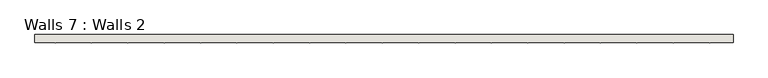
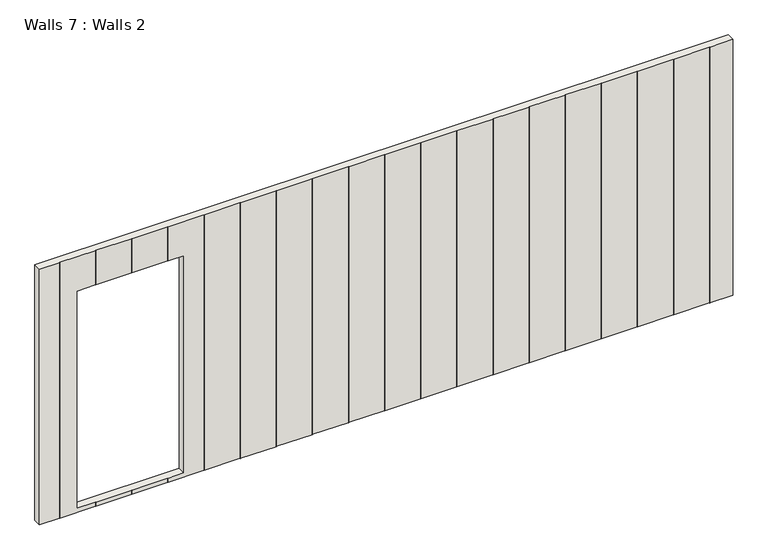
"""IFC4 building model written with IfcOpenShell, lengths in millimetres: wall geometry, Walls 7 : Walls 2."""

from ifc_helpers import new_model, si_unit, origin, place, context, project, spatial, faceted_brep, source, transform, mapped, element, save


def walls_7_walls_2_d57c6ef5(model_context):
    return source(origin(), model_context, "Body", "Brep", [
        faceted_brep([(3398.5161968, -3409.5092181, 3311.0), (-4222.1108023, -3409.5092181, 3311.0), (-4222.1108023, -3496.5092181, 3311.0), (-4004.0308023, -3496.5092181, 3311.0), (-4002.1508023, -3498.3892181, 3311.0), (-4000.2708023, -3496.5092181, 3311.0), (-3607.1508023, -3496.5092181, 3311.0), (-3605.2708023, -3498.3892181, 3311.0), (-3603.3908023, -3496.5092181, 3311.0), (-3210.2708023, -3496.5092181, 3311.0), (-3208.3908023, -3498.3892181, 3311.0), (-3206.5108023, -3496.5092181, 3311.0), (-2813.3908023, -3496.5092181, 3311.0), (-2811.5108023, -3498.3892181, 3311.0), (-2809.6308023, -3496.5092181, 3311.0), (-2416.5108023, -3496.5092181, 3311.0), (-2414.6308023, -3498.3892181, 3311.0), (-2412.7508023, -3496.5092181, 3311.0), (-2019.6308023, -3496.5092181, 3311.0), (-2017.7508023, -3498.3892181, 3311.0), (-2015.8708023, -3496.5092181, 3311.0), (-1622.7508023, -3496.5092181, 3311.0), (-1620.8708023, -3498.3892181, 3311.0), (-1618.9908023, -3496.5092181, 3311.0), (-1225.8708023, -3496.5092181, 3311.0), (-1223.9908023, -3498.3892181, 3311.0), (-1222.1108023, -3496.5092181, 3311.0), (-828.9908023, -3496.5092181, 3311.0), (-827.1108023, -3498.3892181, 3311.0), (-825.2308023, -3496.5092181, 3311.0), (-432.1108023, -3496.5092181, 3311.0), (-430.2308023, -3498.3892181, 3311.0), (-428.3508023, -3496.5092181, 3311.0), (-35.2308023, -3496.5092181, 3311.0), (-33.3508023, -3498.3892181, 3311.0), (-31.4708023, -3496.5092181, 3311.0), (361.6491977, -3496.5092181, 3311.0), (363.5291977, -3498.3892181, 3311.0), (365.4091977, -3496.5092181, 3311.0), (758.5291977, -3496.5092181, 3311.0), (760.4091977, -3498.3892181, 3311.0), (762.2891977, -3496.5092181, 3311.0), (1155.4091977, -3496.5092181, 3311.0), (1157.2891977, -3498.3892181, 3311.0), (1159.1691977, -3496.5092181, 3311.0), (1552.2891977, -3496.5092181, 3311.0), (1554.1691977, -3498.3892181, 3311.0), (1556.0491977, -3496.5092181, 3311.0), (1949.1691977, -3496.5092181, 3311.0), (1951.0491977, -3498.3892181, 3311.0), (1952.9291977, -3496.5092181, 3311.0), (2346.0491977, -3496.5092181, 3311.0), (2347.9291977, -3498.3892181, 3311.0), (2349.8091977, -3496.5092181, 3311.0), (2742.9291977, -3496.5092181, 3311.0), (2744.8091977, -3498.3892181, 3311.0), (2746.6891977, -3496.5092181, 3311.0), (3139.8091977, -3496.5092181, 3311.0), (3141.6891977, -3498.3892181, 3311.0), (3143.5691977, -3496.5092181, 3311.0), (3398.5161968, -3496.5092181, 3311.0), (-4222.1108023, -3409.5092181, 340.0), (3398.5161968, -3409.5092181, 340.0), (3398.5161968, -3496.5092181, 340.0), (3143.5691977, -3496.5092181, 340.0), (3141.6891977, -3498.3892181, 340.0), (3139.8091977, -3496.5092181, 340.0), (2746.6891977, -3496.5092181, 340.0), (2744.8091977, -3498.3892181, 340.0), (2742.9291977, -3496.5092181, 340.0), (2349.8091977, -3496.5092181, 340.0), (2347.9291977, -3498.3892181, 340.0), (2346.0491977, -3496.5092181, 340.0), (1952.9291977, -3496.5092181, 340.0), (1951.0491977, -3498.3892181, 340.0), (1949.1691977, -3496.5092181, 340.0), (1556.0491977, -3496.5092181, 340.0), (1554.1691977, -3498.3892181, 340.0), (1552.2891977, -3496.5092181, 340.0), (1159.1691977, -3496.5092181, 340.0), (1157.2891977, -3498.3892181, 340.0), (1155.4091977, -3496.5092181, 340.0), (762.2891977, -3496.5092181, 340.0), (760.4091977, -3498.3892181, 340.0), (758.5291977, -3496.5092181, 340.0), (365.4091977, -3496.5092181, 340.0), (363.5291977, -3498.3892181, 340.0), (361.6491977, -3496.5092181, 340.0), (-31.4708023, -3496.5092181, 340.0), (-33.3508023, -3498.3892181, 340.0), (-35.2308023, -3496.5092181, 340.0), (-428.3508023, -3496.5092181, 340.0), (-430.2308023, -3498.3892181, 340.0), (-432.1108023, -3496.5092181, 340.0), (-825.2308023, -3496.5092181, 340.0), (-827.1108023, -3498.3892181, 340.0), (-828.9908023, -3496.5092181, 340.0), (-1222.1108023, -3496.5092181, 340.0), (-1223.9908023, -3498.3892181, 340.0), (-1225.8708023, -3496.5092181, 340.0), (-1618.9908023, -3496.5092181, 340.0), (-1620.8708023, -3498.3892181, 340.0), (-1622.7508023, -3496.5092181, 340.0), (-2015.8708023, -3496.5092181, 340.0), (-2017.7508023, -3498.3892181, 340.0), (-2019.6308023, -3496.5092181, 340.0), (-2412.7508023, -3496.5092181, 340.0), (-2414.6308023, -3498.3892181, 340.0), (-2416.5108023, -3496.5092181, 340.0), (-2809.6308023, -3496.5092181, 340.0), (-2811.5108023, -3498.3892181, 340.0), (-2813.3908023, -3496.5092181, 340.0), (-3206.5108023, -3496.5092181, 340.0), (-3208.3908023, -3498.3892181, 340.0), (-3210.2708023, -3496.5092181, 340.0), (-3603.3908023, -3496.5092181, 340.0), (-3605.2708023, -3498.3892181, 340.0), (-3607.1508023, -3496.5092181, 340.0), (-4000.2708023, -3496.5092181, 340.0), (-4002.1508023, -3498.3892181, 340.0), (-4004.0308023, -3496.5092181, 340.0), (-4222.1108023, -3496.5092181, 340.0), (-3811.1992009, -3409.5092181, 2912.5), (-3811.1992009, -3409.5092181, 387.5), (-2636.1992009, -3409.5092181, 387.5), (-2636.1992009, -3409.5092181, 2912.5), (-3607.1508023, -3496.5092181, 387.5), (-3811.1992009, -3496.5092181, 387.5), (-3811.1992009, -3496.5092181, 2912.5), (-3607.1508023, -3496.5092181, 2912.5), (-3605.2708023, -3498.3892181, 2912.5), (-3605.2708023, -3498.3892181, 387.5), (-3603.3908023, -3496.5092181, 2912.5), (-3603.3908023, -3496.5092181, 387.5), (-3210.2708023, -3496.5092181, 2912.5), (-3210.2708023, -3496.5092181, 387.5), (-3208.3908023, -3498.3892181, 2912.5), (-3208.3908023, -3498.3892181, 387.5), (-3206.5108023, -3496.5092181, 2912.5), (-3206.5108023, -3496.5092181, 387.5), (-2813.3908023, -3496.5092181, 2912.5), (-2813.3908023, -3496.5092181, 387.5), (-2811.5108023, -3498.3892181, 2912.5), (-2811.5108023, -3498.3892181, 387.5), (-2809.6308023, -3496.5092181, 2912.5), (-2809.6308023, -3496.5092181, 387.5), (-2636.1992009, -3496.5092181, 2912.5), (-2636.1992009, -3496.5092181, 387.5)], [[[0, 1, 2, 3, 4, 5, 6, 7, 8, 9, 10, 11, 12, 13, 14, 15, 16, 17, 18, 19, 20, 21, 22, 23, 24, 25, 26, 27, 28, 29, 30, 31, 32, 33, 34, 35, 36, 37, 38, 39, 40, 41, 42, 43, 44, 45, 46, 47, 48, 49, 50, 51, 52, 53, 54, 55, 56, 57, 58, 59, 60]], [[61, 62, 63, 64, 65, 66, 67, 68, 69, 70, 71, 72, 73, 74, 75, 76, 77, 78, 79, 80, 81, 82, 83, 84, 85, 86, 87, 88, 89, 90, 91, 92, 93, 94, 95, 96, 97, 98, 99, 100, 101, 102, 103, 104, 105, 106, 107, 108, 109, 110, 111, 112, 113, 114, 115, 116, 117, 118, 119, 120, 121]], [[62, 61, 1, 0], [122, 123, 124, 125]], [[61, 121, 2, 1]], [[3, 2, 121, 120]], [[4, 3, 120, 119]], [[5, 4, 119, 118]], [[6, 5, 118, 117, 126, 127, 128, 129]], [[7, 6, 129, 130]], [[117, 116, 131, 126]], [[8, 7, 130, 132]], [[116, 115, 133, 131]], [[9, 8, 132, 134]], [[115, 114, 135, 133]], [[10, 9, 134, 136]], [[114, 113, 137, 135]], [[11, 10, 136, 138]], [[113, 112, 139, 137]], [[12, 11, 138, 140]], [[112, 111, 141, 139]], [[13, 12, 140, 142]], [[111, 110, 143, 141]], [[14, 13, 142, 144]], [[110, 109, 145, 143]], [[15, 14, 144, 146, 147, 145, 109, 108]], [[16, 15, 108, 107]], [[17, 16, 107, 106]], [[18, 17, 106, 105]], [[19, 18, 105, 104]], [[20, 19, 104, 103]], [[21, 20, 103, 102]], [[22, 21, 102, 101]], [[23, 22, 101, 100]], [[24, 23, 100, 99]], [[25, 24, 99, 98]], [[26, 25, 98, 97]], [[27, 26, 97, 96]], [[28, 27, 96, 95]], [[29, 28, 95, 94]], [[30, 29, 94, 93]], [[31, 30, 93, 92]], [[32, 31, 92, 91]], [[33, 32, 91, 90]], [[34, 33, 90, 89]], [[35, 34, 89, 88]], [[36, 35, 88, 87]], [[37, 36, 87, 86]], [[38, 37, 86, 85]], [[39, 38, 85, 84]], [[40, 39, 84, 83]], [[41, 40, 83, 82]], [[42, 41, 82, 81]], [[43, 42, 81, 80]], [[44, 43, 80, 79]], [[45, 44, 79, 78]], [[46, 45, 78, 77]], [[47, 46, 77, 76]], [[48, 47, 76, 75]], [[49, 48, 75, 74]], [[50, 49, 74, 73]], [[51, 50, 73, 72]], [[52, 51, 72, 71]], [[53, 52, 71, 70]], [[54, 53, 70, 69]], [[55, 54, 69, 68]], [[56, 55, 68, 67]], [[57, 56, 67, 66]], [[58, 57, 66, 65]], [[59, 58, 65, 64]], [[60, 59, 64, 63]], [[0, 60, 63, 62]], [[127, 123, 122, 128]], [[128, 122, 125, 146, 144, 142, 140, 138, 136, 134, 132, 130, 129]], [[146, 125, 124, 147]], [[123, 127, 126, 131, 133, 135, 137, 139, 141, 143, 145, 147, 124]]]),
    ])


if __name__ == "__main__":
    model = new_model("IFC4")
    model_context = context("Model", 3, world=origin())
    ifc_project = project(units=[si_unit("LENGTHUNIT", "METRE", prefix="MILLI")], contexts=[model_context])
    site = spatial("IfcSite", under=ifc_project)
    building = spatial("IfcBuilding", under=site)
    placement = place(None, origin())
    walls_7_walls_2_shape = walls_7_walls_2_d57c6ef5(model_context)
    element("IfcWall", 1, ObjectType="Walls 7 : Walls 2", at=placement, inside=building, context=model_context, shape_type="MappedRepresentation", body=[
        mapped(walls_7_walls_2_shape, transform((0.0, 0.0, 0.0), x_axis=(1.0, 0.0, 0.0), y_axis=(0.0, 1.0, 0.0), z_axis=(0.0, 0.0, 1.0))),
    ])
    save(model, "model.ifc")
